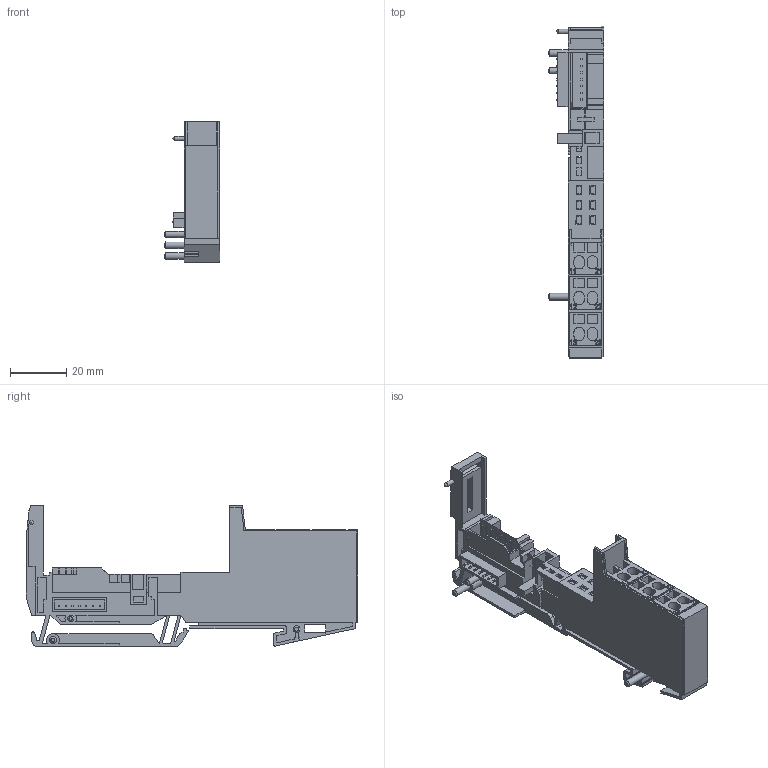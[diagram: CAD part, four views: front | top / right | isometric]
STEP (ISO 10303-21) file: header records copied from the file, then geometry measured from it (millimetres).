
FILE_DESCRIPTION((''),'2;1');
FILE_NAME('C:\TurckZip\BL20-Base-Small.stp','2011-01-13T11:03:56',('IKOROL'),(''),'Autodesk Inventor 2010','Autodesk Inventor 2010','');
FILE_SCHEMA(('CONFIG_CONTROL_DESIGN'));
Length unit declared in the file: millimetre
Products named in the file (1): Part3
Bounding box: 19.6 x 117.6 x 49.9 mm (x, y, z)
Volume: 30200.2 mm3; surface area: 21885.2 mm2
Topology: 1 solids, 1 shells, 780 faces, 2082 edges, 1374 vertices
Faces by surface type: plane 638, bspline 79, cylinder 56, cone 6, sphere 1
Full cylindrical faces by diameter (mm): 1.5 x1, 2.211 x2, 2.4 x2, 2.6 x2
Entity records: 25077 total; most frequent: CARTESIAN_POINT 5206, ORIENTED_EDGE 4130, DIRECTION 3450, EDGE_CURVE 2065, VECTOR 1780, LINE 1780, VERTEX_POINT 1371, EDGE_LOOP 878
